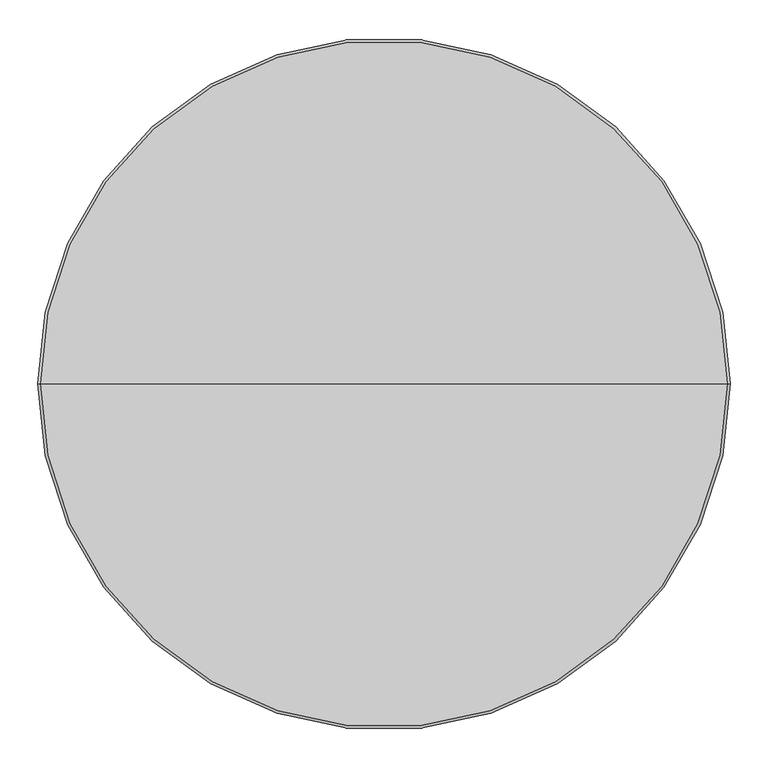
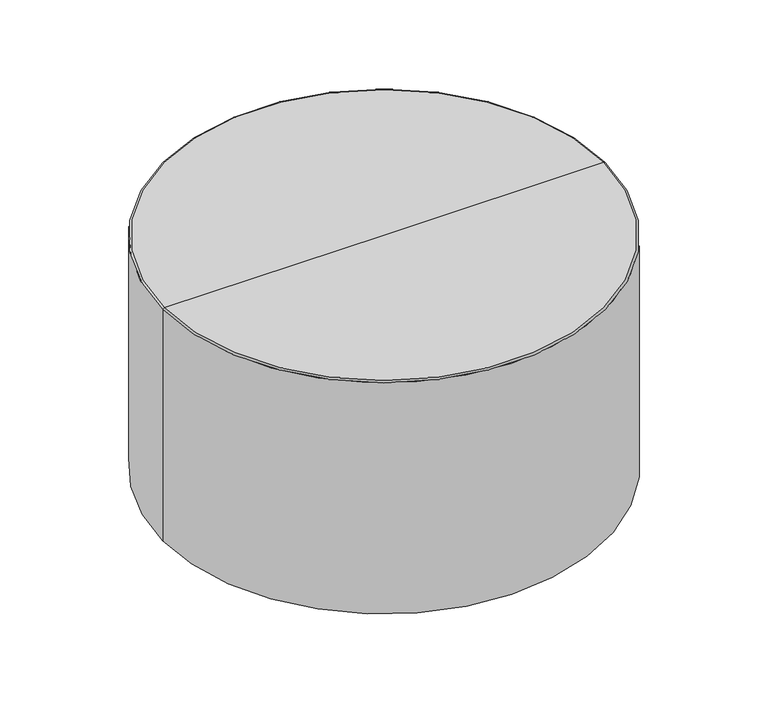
"""IFC4 building model written with IfcOpenShell, lengths in millimetres: furniture geometry, StanceHC-Drum_Table_Upholstered : DRT-36D-20-H."""

from ifc_helpers import new_model, si_unit, point, frame, frame_2d, origin, origin_with_axes, place, context, project, spatial, circle_curve, ellipse_curve, trimmed, segment, composite_curve, outline, extrude, source, transform, mapped, element, save
from ifc_brep_helpers import plane_surface, cylinder_surface, revolved_surface, advanced_brep


def furniture_35c29f31(model_context):
    return source(origin(), model_context, "Body", "SolidModel", [
        extrude(outline(composite_curve([segment(trimmed(circle_curve(frame_2d((0.0, 396.1664845)), 12.7), [point((-12.7, 396.1664845))], [point((12.7, 396.1664845))], False, "CARTESIAN"), True, "CONTINUOUS"), segment(trimmed(circle_curve(frame_2d((0.0, 396.1664845)), 12.7), [point((12.7, 396.1664845))], [point((-12.7, 396.1664845))], False, "CARTESIAN"), True, "CONTINUOUS")], self_intersect=False)), origin_with_axes(), (0.0, 0.0, 1.0), 4.7625),
        extrude(outline(composite_curve([segment(trimmed(circle_curve(frame_2d((0.0, -396.1664845)), 12.7), [point((-12.7, -396.1664845))], [point((12.7, -396.1664845))], False, "CARTESIAN"), True, "CONTINUOUS"), segment(trimmed(circle_curve(frame_2d((0.0, -396.1664845)), 12.7), [point((12.7, -396.1664845))], [point((-12.7, -396.1664845))], False, "CARTESIAN"), True, "CONTINUOUS")], self_intersect=False)), origin_with_axes(), (0.0, 0.0, 1.0), 4.7625),
        extrude(outline(composite_curve([segment(trimmed(circle_curve(frame_2d((400.0496404, 0.0)), 12.7), [point((387.3496404, 0.0))], [point((412.7496404, 0.0))], False, "CARTESIAN"), True, "CONTINUOUS"), segment(trimmed(circle_curve(frame_2d((400.0496404, 0.0)), 12.7), [point((412.7496404, 0.0))], [point((387.3496404, 0.0))], False, "CARTESIAN"), True, "CONTINUOUS")], self_intersect=False)), origin_with_axes(), (0.0, 0.0, 1.0), 4.7625),
        extrude(outline(composite_curve([segment(trimmed(circle_curve(frame_2d((-400.0496404, 0.0)), 12.7), [point((-412.7496404, 0.0))], [point((-387.3496404, 0.0))], False, "CARTESIAN"), True, "CONTINUOUS"), segment(trimmed(circle_curve(frame_2d((-400.0496404, 0.0)), 12.7), [point((-387.3496404, 0.0))], [point((-412.7496404, 0.0))], False, "CARTESIAN"), True, "CONTINUOUS")], self_intersect=False)), origin_with_axes(), (0.0, 0.0, 1.0), 4.7625),
        advanced_brep(
        [(-457.2, 0.0, 4.7625), (457.2, 0.0, 4.7625), (0.0, 0.0, 4.7625), (-457.2, 0.0, 509.6389933), (457.2, 0.0, 509.6389933), (-454.0764933, 0.0, 512.7625), (454.0764933, 0.0, 512.7625), (0.0, 0.0, 512.7625)],
        [
            (0, 1, circle_curve(frame((0.0, 0.0, 4.7625), z_axis=(0.0, 0.0, -1.0), x_axis=(1.0, 0.0, 0.0)), 457.2)),
            (1, 2),
            (2, 0),
            (1, 0, circle_curve(frame((0.0, 0.0, 4.7625), z_axis=(0.0, 0.0, -1.0), x_axis=(1.0, 0.0, 0.0)), 457.2)),
            (3, 4, circle_curve(frame((0.0, 0.0, 509.6389933), z_axis=(0.0, 0.0, -1.0), x_axis=(1.0, 0.0, 0.0)), 457.2)),
            (4, 1),
            (0, 3),
            (4, 3, circle_curve(frame((0.0, 0.0, 509.6389933), z_axis=(0.0, 0.0, -1.0), x_axis=(1.0, 0.0, 0.0)), 457.2)),
            (5, 6, circle_curve(frame((0.0, 0.0, 512.7625), z_axis=(0.0, 0.0, -1.0), x_axis=(1.0, 0.0, 0.0)), 454.0764933)),
            (6, 4, circle_curve(frame((454.0764933, 0.0, 509.6389933), z_axis=(0.0, 1.0, 0.0), x_axis=(1.0, 0.0, 0.0)), 3.1235067)),
            (3, 5, circle_curve(frame((-454.0764933, 0.0, 509.6389933), z_axis=(0.0, 1.0, 0.0), x_axis=(-1.0, 0.0, 0.0)), 3.1235067)),
            (6, 5, circle_curve(frame((0.0, 0.0, 512.7625), z_axis=(0.0, 0.0, -1.0), x_axis=(1.0, 0.0, 0.0)), 454.0764933)),
            (7, 6),
            (5, 7),
        ],
        [
            plane_surface(frame((0.0, 0.0, 4.7625), z_axis=(0.0, 0.0, -1.0), x_axis=(1.0, 0.0, 0.0))),
            cylinder_surface(frame((0.0, 0.0, 608.0125), z_axis=(0.0, 0.0, 1.0), x_axis=(1.0, 0.0, 0.0)), 457.2),
            revolved_surface(trimmed(ellipse_curve(frame((454.0764933, 0.0, 509.6389933), z_axis=(0.0, -1.0, 0.0), x_axis=(1.0, 0.0, 0.0)), 3.1235067, 3.1235067), [point((457.2, 0.0, 509.6389933))], [point((454.0764933, 0.0, 512.7625))], True, "CARTESIAN"), (0.0, 0.0, 608.0125), (0.0, 0.0, 1.0)),
            plane_surface(frame((0.0, 0.0, 512.7625), z_axis=(0.0, 0.0, 1.0), x_axis=(1.0, 0.0, 0.0))),
        ],
        [
            (0, [[1, 2, 3]]),
            (0, [[4, -3, -2]]),
            (1, [[5, 6, -1, 7]]),
            (1, [[8, -7, -4, -6]]),
            (2, [[9, 10, -5, 11]]),
            (2, [[12, -11, -8, -10]]),
            (3, [[13, -9, 14]]),
            (3, [[-14, -12, -13]]),
        ],
    ),
    ])


if __name__ == "__main__":
    model = new_model("IFC4")
    model_context = context("Model", 3, world=origin())
    ifc_project = project(units=[si_unit("LENGTHUNIT", "METRE", prefix="MILLI")], contexts=[model_context])
    site = spatial("IfcSite", under=ifc_project)
    building = spatial("IfcBuilding", under=site)
    placement = place(None, origin())
    furniture_shape = furniture_35c29f31(model_context)
    element("IfcFurniture", 1, ObjectType="StanceHC-Drum_Table_Upholstered : DRT-36D-20-H", at=placement, inside=building, context=model_context, shape_type="MappedRepresentation", body=[
        mapped(furniture_shape, transform((0.0, 0.0, 0.0), x_axis=(1.0, 0.0, 0.0), y_axis=(0.0, 1.0, 0.0), z_axis=(0.0, 0.0, 1.0))),
    ])
    save(model, "model.ifc")
